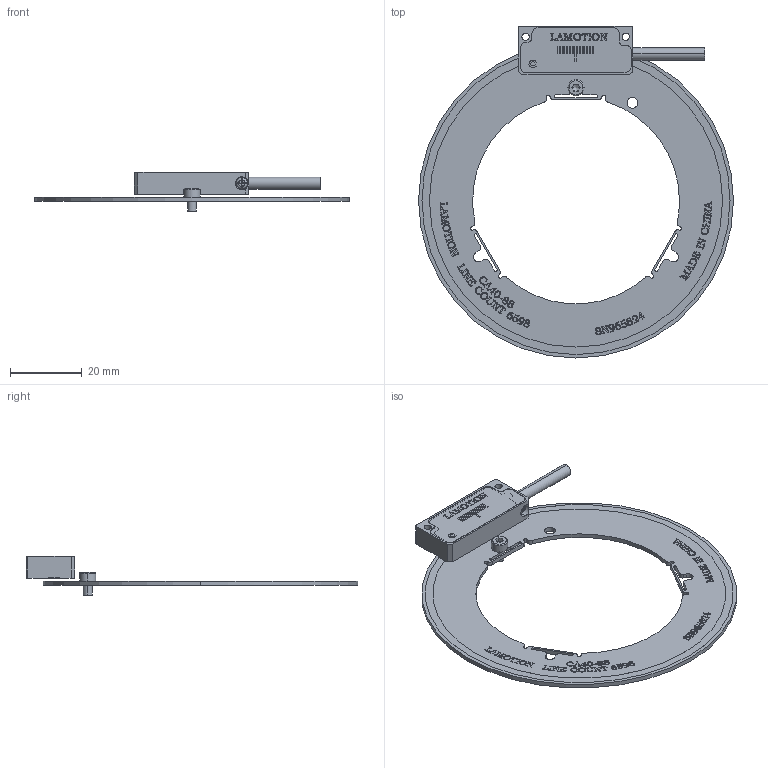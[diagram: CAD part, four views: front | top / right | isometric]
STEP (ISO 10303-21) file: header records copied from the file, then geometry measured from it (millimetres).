
FILE_DESCRIPTION (( 'STEP AP203' ), '1' );
FILE_NAME ('陔COIN+鎢攫蚾饜极 d88.STEP', '2024-08-22T01:25:55', ( '' ), ( '' ), 'SwSTEP 2.0', 'SolidWorks 2024', '' );
FILE_SCHEMA (( 'CONFIG_CONTROL_DESIGN' ));
Length unit declared in the file: millimetre
Products named in the file (8): COIN  装配体 202405W; 新COIN+码盘装配体 d88; LM018-002-01  打标; LM018-001-01 B 紧凑壳体; COIN线缆; 十字槽盘头螺钉 M2-2; hexagon socket head cap screws gb_GB_FASTENER_SCREWS_HSHCS M2.5X4-N; CA40 88 X 56.5
Assembly tree (7 placements, depth 3):
  新COIN+码盘装配体 d88
    CA40 88 X 56.5
    hexagon socket head cap screws gb_GB_FASTENER_SCREWS_HSHCS M2.5X4-N
    COIN  装配体 202405W
      LM018-002-01  打标
      十字槽盘头螺钉 M2-2
      LM018-001-01 B 紧凑壳体
      COIN线缆
Bounding box: 88 x 92.75 x 10.9 mm (x, y, z)
Volume: 5284.3 mm3; surface area: 10641.9 mm2
Topology: 6 solids, 6 shells, 1502 faces, 4136 edges, 2743 vertices
Faces by surface type: plane 924, bspline 407, cylinder 155, cone 12, torus 4
Entity records: 70223 total; most frequent: CARTESIAN_POINT 33698, ORIENTED_EDGE 8260, DIRECTION 5802, EDGE_CURVE 4130, LINE 2952, VECTOR 2952, VERTEX_POINT 2743, EDGE_LOOP 1629
